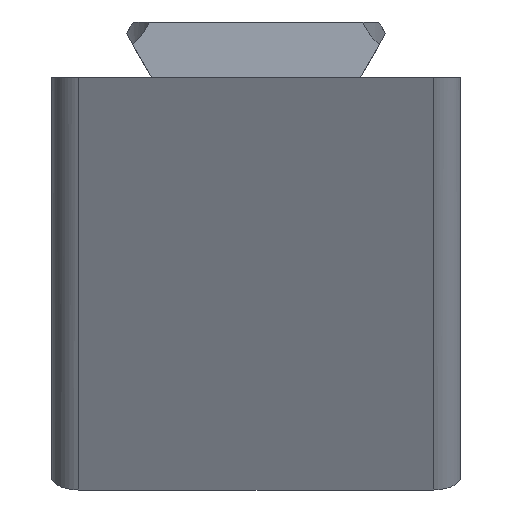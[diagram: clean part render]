
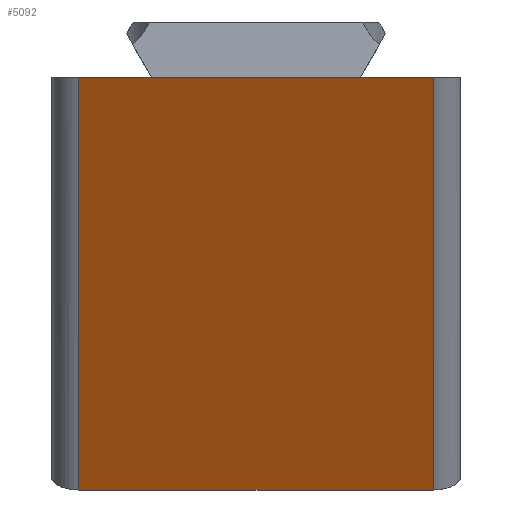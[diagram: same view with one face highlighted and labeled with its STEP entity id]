
A CAD part, left-side view. The second image highlights one B-rep face of the part: STEP entity #5092.
In plain terms, the highlighted planar face has unit normal (-0.883, 0, -0.469).
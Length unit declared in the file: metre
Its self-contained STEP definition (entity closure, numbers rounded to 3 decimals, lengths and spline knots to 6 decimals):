
#806=ORIENTED_EDGE('',*,*,#2126,.T.);
#807=ORIENTED_EDGE('',*,*,#2341,.T.);
#808=ORIENTED_EDGE('',*,*,#2079,.F.);
#809=ORIENTED_EDGE('',*,*,#2342,.T.);
#810=ORIENTED_EDGE('',*,*,#2144,.T.);
#811=ORIENTED_EDGE('',*,*,#2336,.T.);
#2079=EDGE_CURVE('',#2863,#2864,#3385,.T.);
#2126=EDGE_CURVE('',#2911,#2910,#3409,.T.);
#2144=EDGE_CURVE('',#2929,#2928,#3420,.T.);
#2336=EDGE_CURVE('',#2928,#2911,#3504,.T.);
#2341=EDGE_CURVE('',#2910,#2864,#3505,.T.);
#2342=EDGE_CURVE('',#2863,#2929,#3506,.F.);
#2863=VERTEX_POINT('',#6859);
#2864=VERTEX_POINT('',#6861);
#2910=VERTEX_POINT('',#6957);
#2911=VERTEX_POINT('',#6959);
#2928=VERTEX_POINT('',#6993);
#2929=VERTEX_POINT('',#6995);
#3385=LINE('',#6860,#3838);
#3409=LINE('',#6958,#3862);
#3420=LINE('',#6994,#3873);
#3504=LINE('',#7501,#3957);
#3505=LINE('',#7512,#3958);
#3506=LINE('',#7513,#3959);
#3838=VECTOR('',#5727,1.);
#3862=VECTOR('',#5805,1.);
#3873=VECTOR('',#5830,1.);
#3957=VECTOR('',#6030,1.);
#3958=VECTOR('',#6047,1.);
#3959=VECTOR('',#6048,1.);
#4330=EDGE_LOOP('',(#806,#807,#808,#809,#810,#811));
#4657=FACE_BOUND('',#4330,.T.);
#4958=PLANE('',#5476);
#5092=ADVANCED_FACE('',(#4657),#4958,.F.);
#5476=AXIS2_PLACEMENT_3D('',#7511,#6045,#6046);
#5727=DIRECTION('',(0.,1.,0.));
#5805=DIRECTION('',(0.,1.,0.));
#5830=DIRECTION('',(0.,1.,0.));
#6030=DIRECTION('',(0.,1.,0.));
#6045=DIRECTION('',(0.883,0.,0.469));
#6046=DIRECTION('',(0.469,0.,-0.883));
#6047=DIRECTION('',(0.469,0.,-0.883));
#6048=DIRECTION('',(0.469,0.,-0.883));
#6859=CARTESIAN_POINT('',(0.016077,-0.013,-0.030236));
#6860=CARTESIAN_POINT('',(0.016077,-0.015,-0.030236));
#6861=CARTESIAN_POINT('',(0.016077,0.013,-0.030236));
#6957=CARTESIAN_POINT('',(0.,0.013,0.));
#6958=CARTESIAN_POINT('',(0.,-0.015,0.));
#6959=CARTESIAN_POINT('',(0.,0.007695,0.));
#6993=CARTESIAN_POINT('',(0.,-0.007695,0.));
#6994=CARTESIAN_POINT('',(0.,-0.015,0.));
#6995=CARTESIAN_POINT('',(0.,-0.013,0.));
#7501=CARTESIAN_POINT('',(0.,0.,0.));
#7511=CARTESIAN_POINT('',(0.008038,-0.015,-0.015118));
#7512=CARTESIAN_POINT('',(0.008038,0.013,-0.015118));
#7513=CARTESIAN_POINT('',(0.,-0.013,0.));
